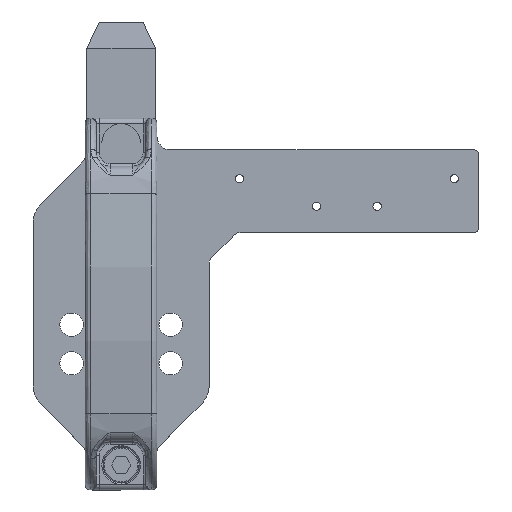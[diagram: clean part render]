
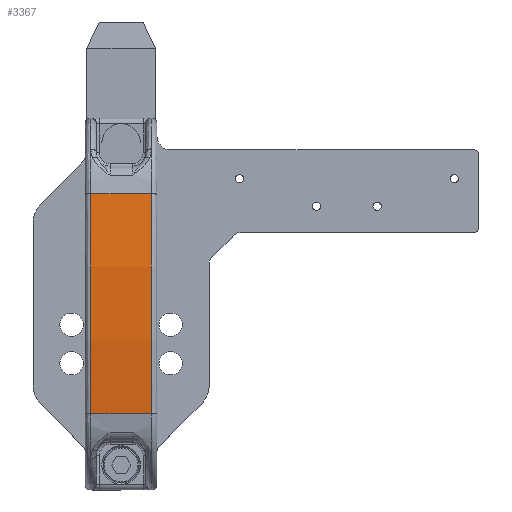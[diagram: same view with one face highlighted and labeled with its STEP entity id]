
A CAD part, top view. The second image highlights one B-rep face of the part: STEP entity #3367.
In plain terms, the highlighted cylindrical face has radius 254.194 mm (diameter 508.389 mm), a partial arc.
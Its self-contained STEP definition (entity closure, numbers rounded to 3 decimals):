
#156 = AXIS2_PLACEMENT_3D ( 'NONE', #1564, #1679, #1934 ) ;
#192 = ORIENTED_EDGE ( 'NONE', *, *, #11780, .T. ) ;
#634 = CARTESIAN_POINT ( 'NONE',  ( 0., 107.5, 67.833 ) ) ;
#646 = EDGE_CURVE ( 'NONE', #8523, #10335, #1821, .T. ) ;
#702 = CARTESIAN_POINT ( 'NONE',  ( -11., 27.5, 67.833 ) ) ;
#989 = DIRECTION ( 'NONE',  ( -1., 0., 0. ) ) ;
#1311 = AXIS2_PLACEMENT_3D ( 'NONE', #11719, #7692, #7810 ) ;
#1564 = CARTESIAN_POINT ( 'NONE',  ( -11., 67.5, -183.194 ) ) ;
#1679 = DIRECTION ( 'NONE',  ( 1., 0., 0. ) ) ;
#1821 = CIRCLE ( 'NONE', #1311, 254.194 ) ;
#1852 = AXIS2_PLACEMENT_3D ( 'NONE', #6924, #989, #7940 ) ;
#1934 = DIRECTION ( 'NONE',  ( 0., 1., 0. ) ) ;
#2911 = VECTOR ( 'NONE', #3483, 1000. ) ;
#3367 = ADVANCED_FACE ( 'NONE', ( #5357 ), #11360, .T. ) ;
#3483 = DIRECTION ( 'NONE',  ( -1., 0., 0. ) ) ;
#3549 = VERTEX_POINT ( 'NONE', #6092 ) ;
#3766 = EDGE_CURVE ( 'NONE', #10335, #9495, #4147, .T. ) ;
#4147 = LINE ( 'NONE', #5681, #2911 ) ;
#4998 = EDGE_LOOP ( 'NONE', ( #5580, #192, #8464, #8549 ) ) ;
#5357 = FACE_OUTER_BOUND ( 'NONE', #4998, .T. ) ;
#5467 = CARTESIAN_POINT ( 'NONE',  ( 11., 27.5, 67.833 ) ) ;
#5545 = DIRECTION ( 'NONE',  ( -1., 0., 0. ) ) ;
#5580 = ORIENTED_EDGE ( 'NONE', *, *, #646, .F. ) ;
#5681 = CARTESIAN_POINT ( 'NONE',  ( 0., 27.5, 67.833 ) ) ;
#6092 = CARTESIAN_POINT ( 'NONE',  ( -11., 107.5, 67.833 ) ) ;
#6924 = CARTESIAN_POINT ( 'NONE',  ( -11., 67.5, -183.194 ) ) ;
#7692 = DIRECTION ( 'NONE',  ( 1., 0., 0. ) ) ;
#7764 = LINE ( 'NONE', #634, #8074 ) ;
#7810 = DIRECTION ( 'NONE',  ( 0., 1., 0. ) ) ;
#7940 = DIRECTION ( 'NONE',  ( 0., 0., -1. ) ) ;
#8074 = VECTOR ( 'NONE', #5545, 1000. ) ;
#8464 = ORIENTED_EDGE ( 'NONE', *, *, #11517, .F. ) ;
#8523 = VERTEX_POINT ( 'NONE', #10802 ) ;
#8549 = ORIENTED_EDGE ( 'NONE', *, *, #3766, .F. ) ;
#9495 = VERTEX_POINT ( 'NONE', #702 ) ;
#9654 = CIRCLE ( 'NONE', #1852, 254.194 ) ;
#10335 = VERTEX_POINT ( 'NONE', #5467 ) ;
#10802 = CARTESIAN_POINT ( 'NONE',  ( 11., 107.5, 67.833 ) ) ;
#11360 = CYLINDRICAL_SURFACE ( 'NONE', #156, 254.194 ) ;
#11517 = EDGE_CURVE ( 'NONE', #9495, #3549, #9654, .T. ) ;
#11719 = CARTESIAN_POINT ( 'NONE',  ( 11., 67.5, -183.194 ) ) ;
#11780 = EDGE_CURVE ( 'NONE', #8523, #3549, #7764, .T. ) ;
